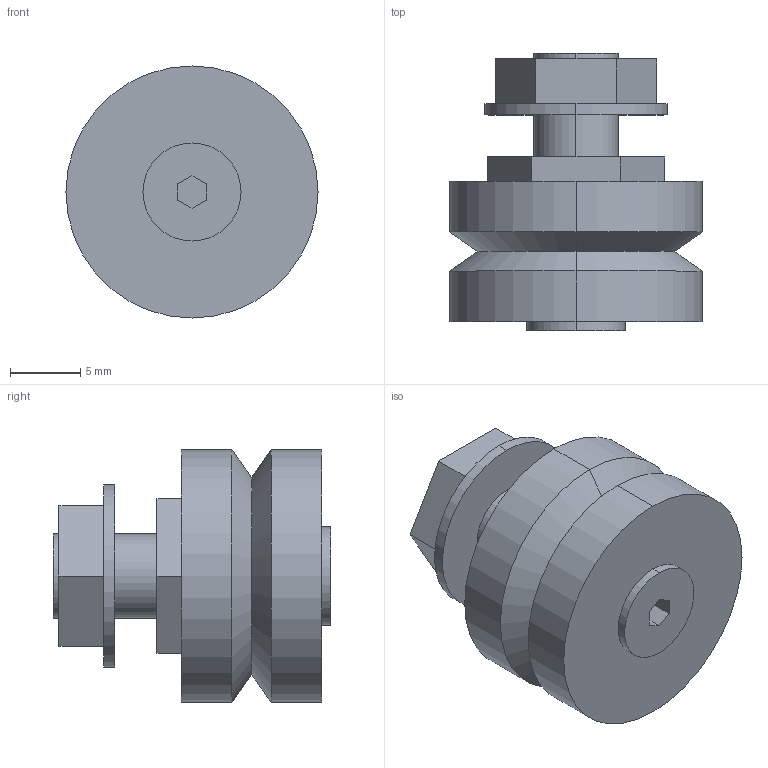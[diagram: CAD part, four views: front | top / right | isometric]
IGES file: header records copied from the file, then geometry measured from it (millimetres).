
Start section: 3D InterOp IGES (v. 2019 1.0.2), Spatial Corp. Copyright (c) 1999-2017.
Global section: file name: SJ 18 CNS.igs; native system: Spatial Corp.; preprocessor: 3D InterOp GENERIC/IGES 3.0; author: Noname; organization: Noname; date: 20220628.165355; units: millimetre
Bounding box: 18 x 19.8 x 18 mm (x, y, z)
Surface area: 1672.9 mm2 (no closed solid volume)
Topology: 0 solids, 0 shells, 43 faces, 192 edges, 192 vertices
Faces by surface type: extrusion 27, revolution 16
